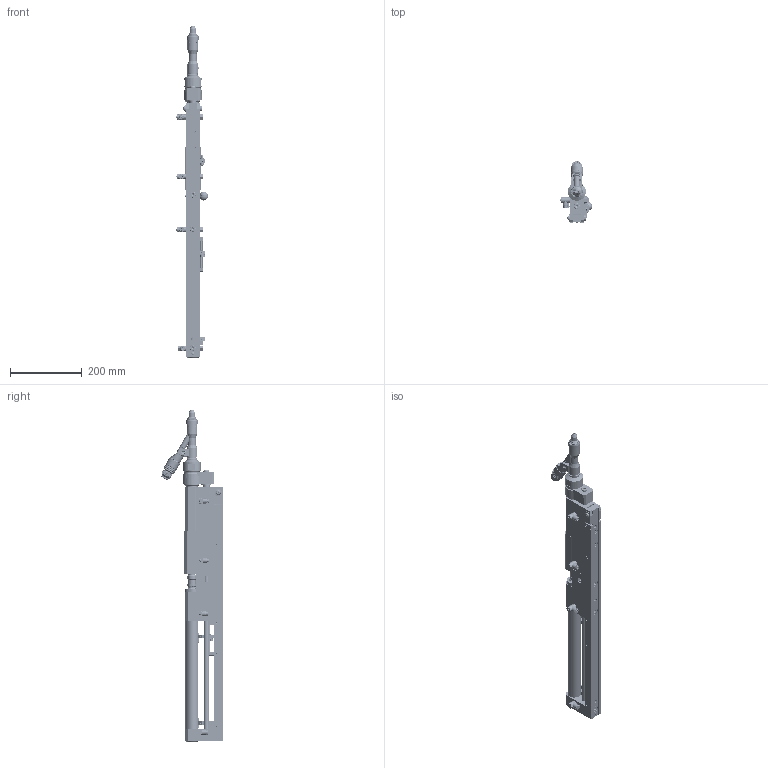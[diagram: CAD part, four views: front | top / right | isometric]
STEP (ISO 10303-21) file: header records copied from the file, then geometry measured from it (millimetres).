
FILE_DESCRIPTION(/* description */ (''),/* implementation_level */ '2;1');
FILE_NAME(/* name */ 'G:\Modelle für Marketing\3Ds Parasolid\3D_Parasolid_automatic_setting_system_EDE3201_series.x_b.ipt.stp',/* time_stamp */ '2016-07-28T11:55:28+02:00',/* author */ ('Wolf'),/* organization */ (''),/* preprocessor_version */ 'ST-DEVELOPER v15.2',/* originating_system */ 'Autodesk Inventor 2014',/* authorisation */ '');
FILE_SCHEMA (('AUTOMOTIVE_DESIGN { 1 0 10303 214 3 1 1 }'));
Products named in the file (1): 3D_Parasolid_automatic_setting_system_EDE3201_series.x_b
Bounding box: 89.4 x 171.64 x 922.95 mm (x, y, z)
Volume: 2044338.1 mm3; surface area: 712882.2 mm2
Topology: 26 solids, 101 shells, 3518 faces, 8939 edges, 5809 vertices
Faces by surface type: plane 1860, cylinder 1001, cone 409, bspline 159, torus 79, sphere 10
Full cylindrical faces by diameter (mm): 1 x1, 1.5 x2, 2.38 x2, 2.42 x2, 2.459 x3, 2.5 x7, 2.54 x3, 3 x10, 3.02 x2, 3.04 x3, 3.2 x3, 3.242 x17, 3.5 x1, 3.6 x1, 4 x12, 4.1 x1, 4.134 x15, 4.3 x2, 4.5 x5, 4.917 x3, 5 x8, 5.4 x1, 5.6 x2, 6 x13, 6.05 x2, 6.1 x1, 6.2 x5, 6.3 x4, 6.5 x3, 6.64 x3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
Entity records: 113062 total; most frequent: CARTESIAN_POINT 31362, DIRECTION 16271, ORIENTED_EDGE 15186, EDGE_CURVE 7593, AXIS2_PLACEMENT_3D 6467, VERTEX_POINT 5406, EDGE_LOOP 4943, ADVANCED_FACE 3516
